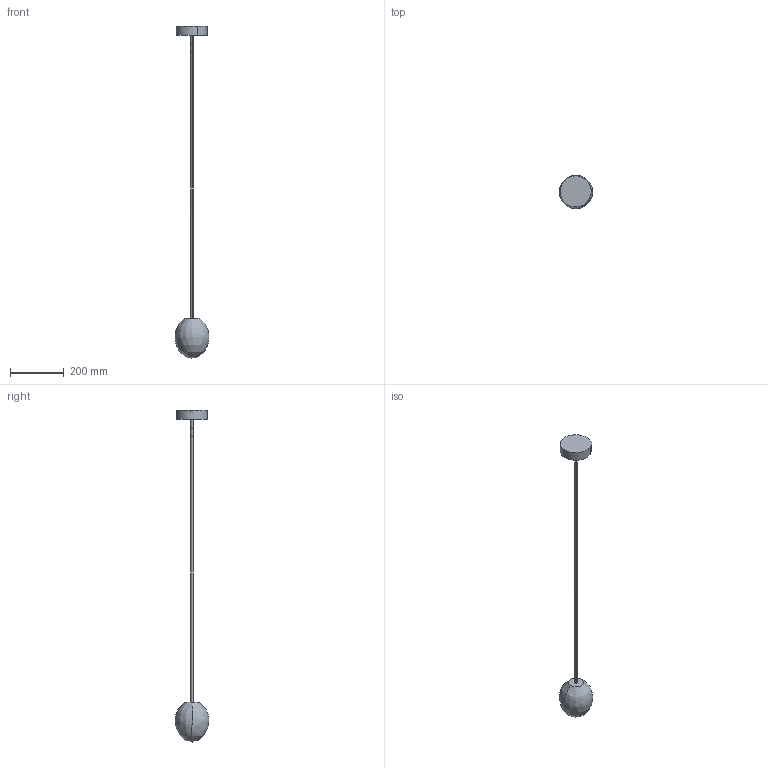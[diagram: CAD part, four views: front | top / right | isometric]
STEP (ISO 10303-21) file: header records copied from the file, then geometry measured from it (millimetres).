
FILE_DESCRIPTION(/* description */ (''),/* implementation_level */ '2;1');
FILE_NAME(/* name */ 'The Philosophical Egg Pendant, 2019',/* time_stamp */ '2020-10-12T09:49:36+01:00',/* author */ (''),/* organization */ (''),/* preprocessor_version */ 'ST-DEVELOPER v15',/* originating_system */ '',/* authorisation */ '');
FILE_SCHEMA (('AUTOMOTIVE_DESIGN'));
Length unit declared in the file: millimetre
Products named in the file (1): Document
Bounding box: 125 x 125 x 1231.08 mm (x, y, z)
Surface area: 117236 mm2 (no closed solid volume)
Topology: 0 solids, 2 shells, 16 faces, 40 edges, 26 vertices
Faces by surface type: bspline 13, plane 3
Entity records: 729 total; most frequent: CARTESIAN_POINT 496, ORIENTED_EDGE 65, EDGE_CURVE 37, VERTEX_POINT 24, EDGE_LOOP 18, ADVANCED_FACE 16, FACE_OUTER_BOUND 16, B_SPLINE_CURVE_WITH_KNOTS 10
